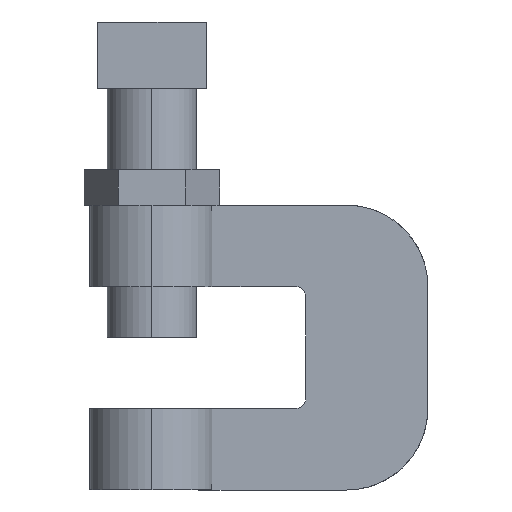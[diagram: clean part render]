
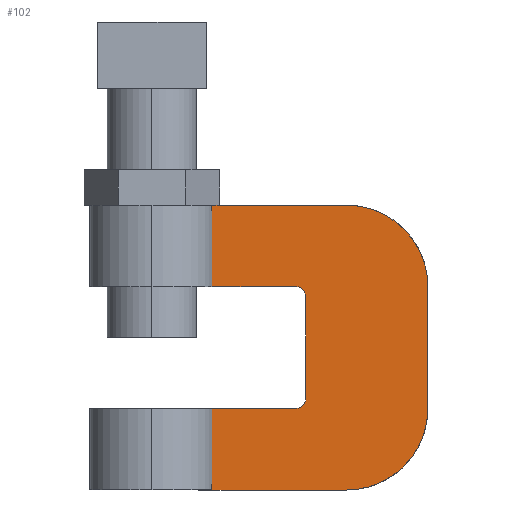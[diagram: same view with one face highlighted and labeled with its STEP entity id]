
A CAD part, front view. The second image highlights one B-rep face of the part: STEP entity #102.
In plain terms, the highlighted planar face has unit normal (0, -1, 0).
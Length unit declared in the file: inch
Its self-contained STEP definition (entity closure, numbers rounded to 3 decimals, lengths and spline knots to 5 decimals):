
#102=ADVANCED_FACE('',(#244),#245,.F.);
#244=FACE_OUTER_BOUND('',#444,.T.);
#245=PLANE('',#445);
#444=EDGE_LOOP('',(#822,#823,#824,#825,#826,#827,#828,#829,#830,#831,#832,#833,#834,#835,#836,#837));
#445=AXIS2_PLACEMENT_3D('',#838,#839,#840);
#822=ORIENTED_EDGE('',*,*,#1269,.T.);
#823=ORIENTED_EDGE('',*,*,#1270,.T.);
#824=ORIENTED_EDGE('',*,*,#1271,.F.);
#825=ORIENTED_EDGE('',*,*,#1272,.F.);
#826=ORIENTED_EDGE('',*,*,#1273,.F.);
#827=ORIENTED_EDGE('',*,*,#1274,.F.);
#828=ORIENTED_EDGE('',*,*,#1275,.F.);
#829=ORIENTED_EDGE('',*,*,#1276,.F.);
#830=ORIENTED_EDGE('',*,*,#1277,.F.);
#831=ORIENTED_EDGE('',*,*,#1278,.T.);
#832=ORIENTED_EDGE('',*,*,#1279,.T.);
#833=ORIENTED_EDGE('',*,*,#1280,.F.);
#834=ORIENTED_EDGE('',*,*,#1281,.F.);
#835=ORIENTED_EDGE('',*,*,#1282,.F.);
#836=ORIENTED_EDGE('',*,*,#1283,.F.);
#837=ORIENTED_EDGE('',*,*,#1284,.F.);
#838=CARTESIAN_POINT('',(0.74862,-0.125,0.99999));
#839=DIRECTION('',(0.,1.0,0.));
#840=DIRECTION('',(0.0,0.,1.0));
#1269=EDGE_CURVE('',#1479,#1480,#1481,.T.);
#1270=EDGE_CURVE('',#1480,#1482,#1483,.T.);
#1271=EDGE_CURVE('',#1484,#1482,#1485,.T.);
#1272=EDGE_CURVE('',#1486,#1484,#1487,.T.);
#1273=EDGE_CURVE('',#1488,#1486,#1489,.T.);
#1274=EDGE_CURVE('',#1490,#1488,#1491,.T.);
#1275=EDGE_CURVE('',#1492,#1490,#1493,.T.);
#1276=EDGE_CURVE('',#1494,#1492,#1495,.T.);
#1277=EDGE_CURVE('',#1496,#1494,#1497,.T.);
#1278=EDGE_CURVE('',#1496,#1498,#1499,.T.);
#1279=EDGE_CURVE('',#1498,#1500,#1501,.T.);
#1280=EDGE_CURVE('',#1502,#1500,#1503,.T.);
#1281=EDGE_CURVE('',#1504,#1502,#1505,.T.);
#1282=EDGE_CURVE('',#1506,#1504,#1507,.T.);
#1283=EDGE_CURVE('',#1508,#1506,#1509,.T.);
#1284=EDGE_CURVE('',#1479,#1508,#1510,.T.);
#1479=VERTEX_POINT('',#1789);
#1480=VERTEX_POINT('',#1790);
#1481=LINE('',#1791,#1792);
#1482=VERTEX_POINT('',#1793);
#1483=LINE('',#1794,#1795);
#1484=VERTEX_POINT('',#1796);
#1485=LINE('',#1797,#1798);
#1486=VERTEX_POINT('',#1799);
#1487=LINE('',#1800,#1801);
#1488=VERTEX_POINT('',#1802);
#1489=B_SPLINE_CURVE_WITH_KNOTS('',3,(#1803,#1804,#1805,#1806),.UNSPECIFIED.,.F.,.F.,(4,4),(0.0,1.0),.UNSPECIFIED.);
#1490=VERTEX_POINT('',#1807);
#1491=LINE('',#1808,#1809);
#1492=VERTEX_POINT('',#1810);
#1493=B_SPLINE_CURVE_WITH_KNOTS('',3,(#1811,#1812,#1813,#1814),.UNSPECIFIED.,.F.,.F.,(4,4),(0.0,1.0),.UNSPECIFIED.);
#1494=VERTEX_POINT('',#1815);
#1495=LINE('',#1816,#1817);
#1496=VERTEX_POINT('',#1818);
#1497=LINE('',#1819,#1820);
#1498=VERTEX_POINT('',#1821);
#1499=LINE('',#1822,#1823);
#1500=VERTEX_POINT('',#1824);
#1501=LINE('',#1825,#1826);
#1502=VERTEX_POINT('',#1827);
#1503=LINE('',#1828,#1829);
#1504=VERTEX_POINT('',#1830);
#1505=B_SPLINE_CURVE_WITH_KNOTS('',3,(#1831,#1832,#1833,#1834),.UNSPECIFIED.,.F.,.F.,(4,4),(0.0,1.0),.UNSPECIFIED.);
#1506=VERTEX_POINT('',#1835);
#1507=LINE('',#1836,#1837);
#1508=VERTEX_POINT('',#1838);
#1509=B_SPLINE_CURVE_WITH_KNOTS('',3,(#1839,#1840,#1841,#1842),.UNSPECIFIED.,.F.,.F.,(4,4),(0.0,1.0),.UNSPECIFIED.);
#1510=LINE('',#1843,#1844);
#1789=CARTESIAN_POINT('',(0.0896,-0.125,0.57143));
#1790=CARTESIAN_POINT('',(0.0896,-0.125,0.00025));
#1791=CARTESIAN_POINT('',(0.0896,-0.125,0.57168));
#1792=VECTOR('',#2376,1.0);
#1793=CARTESIAN_POINT('',(0.0,-0.125,0.00025));
#1794=CARTESIAN_POINT('',(0.20942,-0.125,0.00025));
#1795=VECTOR('',#2377,1.0);
#1796=CARTESIAN_POINT('',(0.0,-0.125,0.0));
#1797=CARTESIAN_POINT('',(0.0,-0.125,0.0));
#1798=VECTOR('',#2378,1.0);
#1799=CARTESIAN_POINT('',(1.03615,-0.125,0.0));
#1800=CARTESIAN_POINT('',(1.03615,-0.125,0.0));
#1801=VECTOR('',#2379,1.0);
#1802=CARTESIAN_POINT('',(1.60758,-0.125,0.57143));
#1803=CARTESIAN_POINT('',(1.60758,-0.125,0.57143));
#1804=CARTESIAN_POINT('',(1.60758,-0.125,0.25583));
#1805=CARTESIAN_POINT('',(1.35174,-0.125,0.0));
#1806=CARTESIAN_POINT('',(1.03615,-0.125,0.0));
#1807=CARTESIAN_POINT('',(1.60758,-0.125,1.42858));
#1808=CARTESIAN_POINT('',(1.60758,-0.125,1.42858));
#1809=VECTOR('',#2380,1.0);
#1810=CARTESIAN_POINT('',(1.03615,-0.125,2.00001));
#1811=CARTESIAN_POINT('',(1.03615,-0.125,2.00001));
#1812=CARTESIAN_POINT('',(1.35174,-0.125,2.00001));
#1813=CARTESIAN_POINT('',(1.60758,-0.125,1.74418));
#1814=CARTESIAN_POINT('',(1.60758,-0.125,1.42858));
#1815=CARTESIAN_POINT('',(0.00011,-0.125,2.00001));
#1816=CARTESIAN_POINT('',(0.00011,-0.125,2.00001));
#1817=VECTOR('',#2381,1.0);
#1818=CARTESIAN_POINT('',(0.00011,-0.125,1.99923));
#1819=CARTESIAN_POINT('',(0.00011,-0.125,1.42858));
#1820=VECTOR('',#2382,1.0);
#1821=CARTESIAN_POINT('',(0.0896,-0.125,1.99923));
#1822=CARTESIAN_POINT('',(0.20942,-0.125,1.99923));
#1823=VECTOR('',#2383,1.0);
#1824=CARTESIAN_POINT('',(0.0896,-0.125,1.42858));
#1825=CARTESIAN_POINT('',(0.0896,-0.125,1.99923));
#1826=VECTOR('',#2384,1.0);
#1827=CARTESIAN_POINT('',(0.67901,-0.125,1.42858));
#1828=CARTESIAN_POINT('',(0.67901,-0.125,1.42858));
#1829=VECTOR('',#2385,1.0);
#1830=CARTESIAN_POINT('',(0.75044,-0.125,1.35715));
#1831=CARTESIAN_POINT('',(0.75044,-0.125,1.35715));
#1832=CARTESIAN_POINT('',(0.75044,-0.125,1.39661));
#1833=CARTESIAN_POINT('',(0.71845,-0.125,1.42858));
#1834=CARTESIAN_POINT('',(0.67901,-0.125,1.42858));
#1835=CARTESIAN_POINT('',(0.75044,-0.125,0.64286));
#1836=CARTESIAN_POINT('',(0.75044,-0.125,0.64286));
#1837=VECTOR('',#2386,1.0);
#1838=CARTESIAN_POINT('',(0.67901,-0.125,0.57143));
#1839=CARTESIAN_POINT('',(0.67901,-0.125,0.57143));
#1840=CARTESIAN_POINT('',(0.71845,-0.125,0.57143));
#1841=CARTESIAN_POINT('',(0.75044,-0.125,0.60341));
#1842=CARTESIAN_POINT('',(0.75044,-0.125,0.64286));
#1843=CARTESIAN_POINT('',(0.0,-0.125,0.57143));
#1844=VECTOR('',#2387,1.0);
#2376=DIRECTION('',(0.0,0.,-1.0));
#2377=DIRECTION('',(-1.0,0.,0.));
#2378=DIRECTION('',(0.0,0.0,1.0));
#2379=DIRECTION('',(-1.0,0.0,0.0));
#2380=DIRECTION('',(0.0,0.,-1.0));
#2381=DIRECTION('',(1.0,0.0,0.0));
#2382=DIRECTION('',(0.0,0.0,1.0));
#2383=DIRECTION('',(1.0,0.,0.));
#2384=DIRECTION('',(0.0,0.,-1.0));
#2385=DIRECTION('',(-1.0,0.0,0.0));
#2386=DIRECTION('',(0.0,0.,1.0));
#2387=DIRECTION('',(1.0,0.0,0.0));
